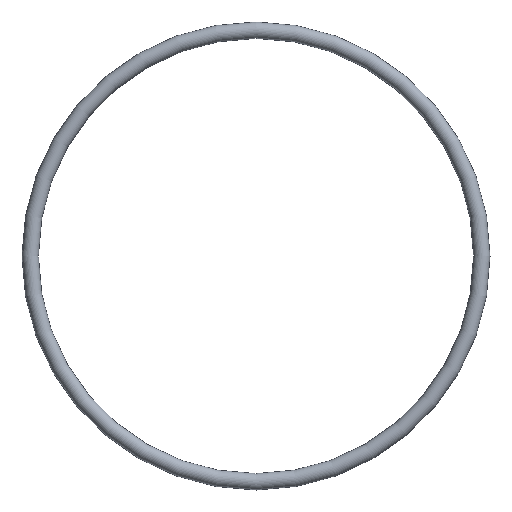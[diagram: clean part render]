
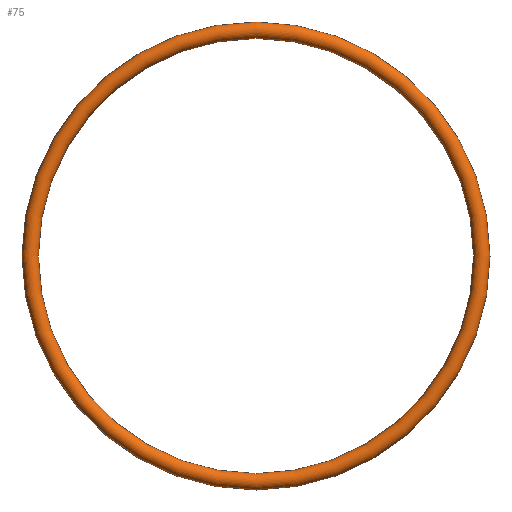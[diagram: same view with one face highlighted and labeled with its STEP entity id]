
A CAD part, front view. The second image highlights one B-rep face of the part: STEP entity #75.
In plain terms, the highlighted toroidal (fillet/blend) face has major radius 27.5 mm and minor radius 1 mm.
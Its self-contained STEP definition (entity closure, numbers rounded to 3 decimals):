
#75 = ADVANCED_FACE( '', ( #77 ), #78, .T. );
#77 = FACE_BOUND( '', #79, .T. );
#78 = TOROIDAL_SURFACE( '', #80, 27.5, 1. );
#79 = VERTEX_LOOP( '', #81 );
#80 = AXIS2_PLACEMENT_3D( '', #82, #83, #84 );
#81 = VERTEX_POINT( '', #85 );
#82 = CARTESIAN_POINT( '', ( 0., 0., 0. ) );
#83 = DIRECTION( '', ( 0., -1., 0. ) );
#84 = DIRECTION( '', ( 0., 0., -1. ) );
#85 = CARTESIAN_POINT( '', ( 0., 0., -28.5 ) );
